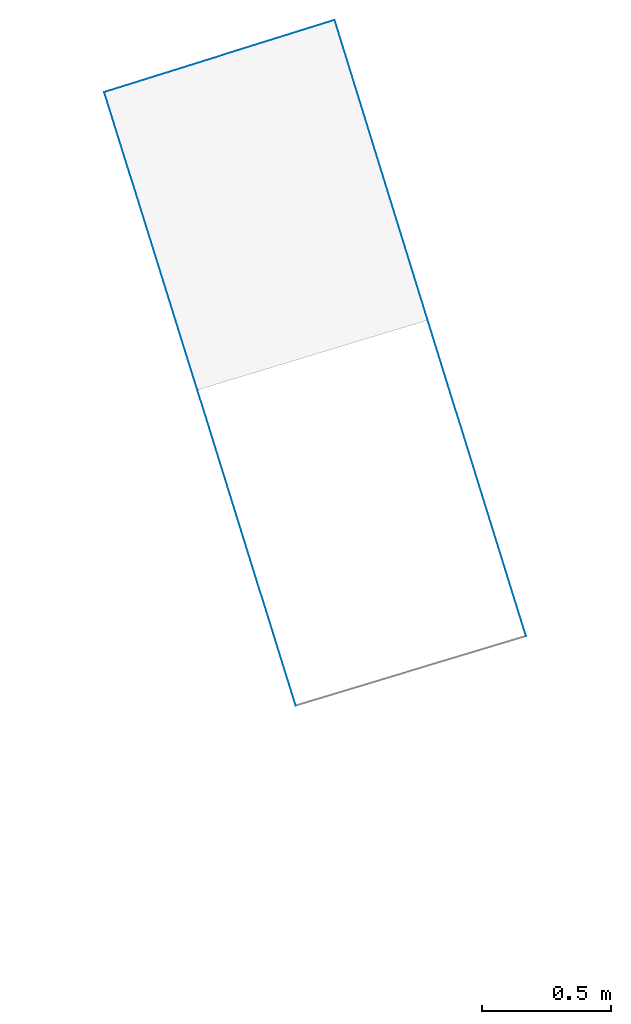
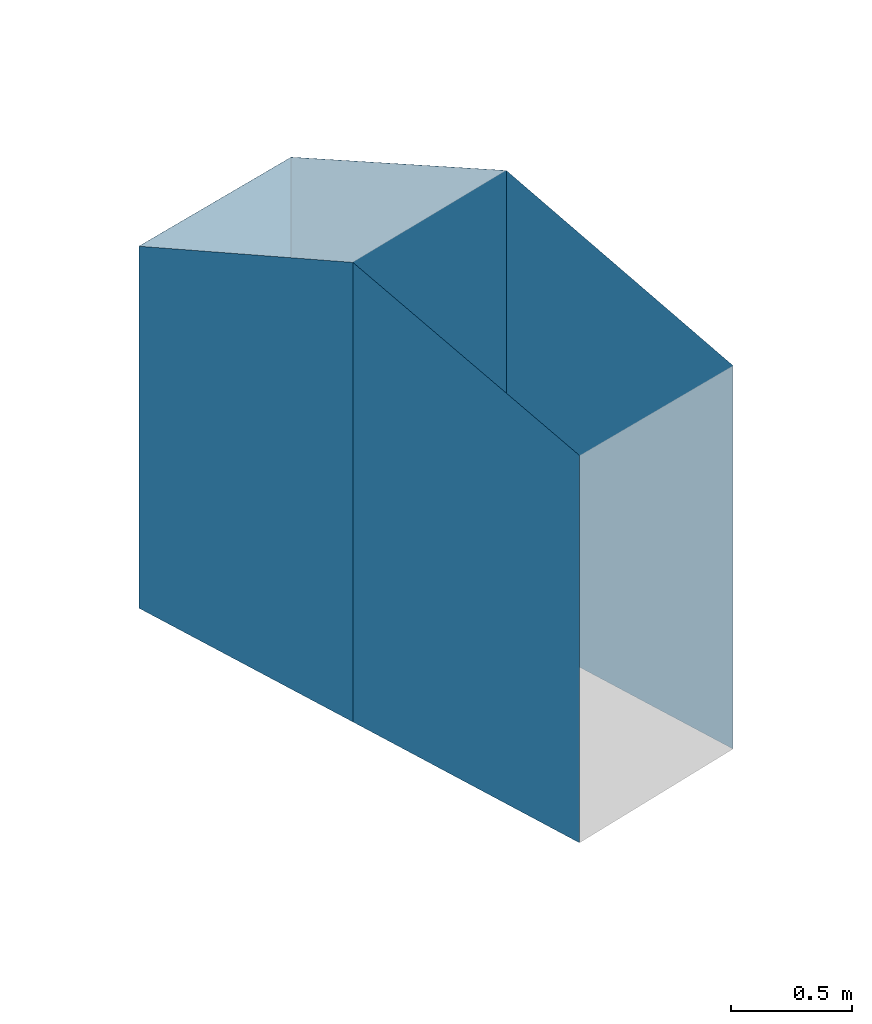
# Not in any storey, part 42 of 59: 5 walls.
"""IFC4 building model written with IfcOpenShell, lengths in metres."""

import ifcopenshell
import ifcopenshell.guid

model = None  # the IFC model being written
_history = None  # IfcOwnerHistory: only IFC2X3 demands one
_inside = {}  # id of a spatial element -> (the spatial element, [elements in it])
_under = {}  # id of a project, library or spatial element -> (it, [spatial elements below it])
_declared = {}  # id of a project -> (the project, [libraries it declares])
_typed = {}  # id of a type object -> (the type object, [elements of that type])
_made_of = {}  # id of a material, layer set ... -> (it, [elements and type objects made of it])


def new_model(schema):
    """Start an empty IFC model of exactly this schema.

    Asked for "IFC4X3", IfcOpenShell would pick the latest addendum, in which some entities
    have other attributes; the version numbers below select the first issue.
    IFC2X3 requires an IfcOwnerHistory on every rooted entity: one is made here for all.
    """
    global model, _history
    if schema == "IFC4X3":
        model = ifcopenshell.file(schema_version=(4, 3, 0, 0))
    else:
        model = ifcopenshell.file(schema=schema)
    _inside.clear()
    _under.clear()
    _declared.clear()
    _typed.clear()
    _made_of.clear()
    _history = None
    if model.schema == "IFC2X3":
        org = make("IfcOrganization", Name="unknown")
        user = make(
            "IfcPersonAndOrganization",
            ThePerson=make("IfcPerson", FamilyName="unknown"),
            TheOrganization=org,
        )
        app = make(
            "IfcApplication",
            ApplicationDeveloper=org,
            Version="unknown",
            ApplicationFullName="unknown",
            ApplicationIdentifier="unknown",
        )
        _history = make(
            "IfcOwnerHistory",
            OwningUser=user,
            OwningApplication=app,
            ChangeAction="ADDED",
            CreationDate=0,
        )
    return model


def make(cls, **values):
    """One entity of the class cls with the attributes given. An attribute that is None is left unset."""
    return model.create_entity(
        cls, **{name: value for name, value in values.items() if value is not None}
    )


def entity(cls, *values):
    """Any entity or typed value of the class cls, its attributes in the order of the schema. None: left unset."""
    e = model.create_entity(cls)
    for i, value in enumerate(values):
        if value is not None:
            e[i] = value
    return e


def rooted(cls, **values):
    """An entity with a GlobalId (a new one), such as an element, a storey or a relation."""
    return make(cls, GlobalId=ifcopenshell.guid.new(), OwnerHistory=_history, **values)


def si_unit(unit_type, name, prefix=None):
    """IfcSIUnit, for example si_unit("LENGTHUNIT", "METRE", prefix="MILLI")."""
    return make("IfcSIUnit", UnitType=unit_type, Prefix=prefix, Name=name)


def converted_unit(unit_type, name, factor, base, dimensions=None, offset=None):
    """IfcConversionBasedUnit, such as the inch: factor (a typed value) times the base unit."""
    return make(
        "IfcConversionBasedUnit"
        if offset is None
        else "IfcConversionBasedUnitWithOffset",
        ConversionOffset=offset,
        Dimensions=None
        if dimensions is None
        else entity("IfcDimensionalExponents", *dimensions),
        UnitType=unit_type,
        Name=name,
        ConversionFactor=make(
            "IfcMeasureWithUnit", ValueComponent=factor, UnitComponent=base
        ),
    )


def assignment(units):
    """IfcUnitAssignment: the units of a project."""
    return None if units is None else make("IfcUnitAssignment", Units=units)


def point(xyz):
    """IfcCartesianPoint."""
    return None if xyz is None else make("IfcCartesianPoint", Coordinates=xyz)


def direction(xyz):
    """IfcDirection."""
    return None if xyz is None else make("IfcDirection", DirectionRatios=xyz)


def frame(location, z_axis=None, x_axis=None):
    """IfcAxis2Placement3D, a coordinate frame: its origin and axes. An axis left out is left unset."""
    return make(
        "IfcAxis2Placement3D",
        Location=point(location),
        Axis=direction(z_axis),
        RefDirection=direction(x_axis),
    )


def origin():
    """The frame at (0, 0, 0) with its axes left unset."""
    return frame((0.0, 0.0, 0.0))


def place(relative_to, where):
    """IfcLocalPlacement: puts the frame where relative to a parent placement (None: the world)."""
    return make(
        "IfcLocalPlacement", PlacementRelTo=relative_to, RelativePlacement=where
    )


def context(
    kind, dimensions, precision=None, world=None, true_north=None, identifier=None
):
    """IfcGeometricRepresentationContext, for example the 3D "Model" context."""
    return make(
        "IfcGeometricRepresentationContext",
        ContextIdentifier=identifier,
        ContextType=kind,
        CoordinateSpaceDimension=dimensions,
        Precision=precision,
        WorldCoordinateSystem=world,
        TrueNorth=true_north,
    )


def subcontext(parent, identifier, kind, view, scale=None):
    """IfcGeometricRepresentationSubContext, for example "Body" below "Model"."""
    return make(
        "IfcGeometricRepresentationSubContext",
        ContextIdentifier=identifier,
        ContextType=kind,
        ParentContext=parent,
        TargetScale=scale,
        TargetView=view,
    )


def project(units=None, contexts=None):
    """IfcProject with its units and contexts."""
    return rooted(
        "IfcProject",
        Name="project",
        RepresentationContexts=contexts,
        UnitsInContext=assignment(units),
    )


def spatial(cls, under=None, at=None, **own):
    """A site, building, storey or space (cls), placed at a placement, below another one or the project."""
    s = rooted(cls, ObjectPlacement=at, **own)
    if under is not None:
        _under.setdefault(under.id(), (under, []))[1].append(s)
    return s


def faces_of(points, faces, orient=None, outer=None):
    """IfcFace entities. A face is a list of loops; a loop is a list of indices into points, from 0.

    orient and outer hold one flag for each loop. By default every Orientation is true, the
    first loop of a face is its IfcFaceOuterBound and the others are IfcFaceBound.
    """
    made = []
    for i, loops in enumerate(faces):
        bounds = []
        for j, loop in enumerate(loops):
            is_outer = j == 0 if outer is None else outer[i][j]
            bounds.append(
                make(
                    "IfcFaceOuterBound" if is_outer else "IfcFaceBound",
                    Bound=make("IfcPolyLoop", Polygon=[points[k] for k in loop]),
                    Orientation=True if orient is None else orient[i][j],
                )
            )
        made.append(make("IfcFace", Bounds=bounds))
    return made


def face_set(faces, orient=None, outer=None):
    """The faces of one IfcConnectedFaceSet. surface_model builds it on its shared points."""
    return ("IfcConnectedFaceSet", faces, orient, outer)


def surface_model(cls, points, shells):
    """IfcFaceBasedSurfaceModel or IfcShellBasedSurfaceModel (cls): surfaces that need not close."""
    shared = [point(p) for p in points]
    made = [make(c, CfsFaces=faces_of(shared, fs, o, b)) for c, fs, o, b in shells]
    if cls == "IfcFaceBasedSurfaceModel":
        return make(cls, FbsmFaces=made)
    return make(cls, SbsmBoundary=made)


def shape(context_of_items, identifier, shape_type, items):
    """IfcShapeRepresentation: the items that make up one representation, for example the "Body"."""
    return make(
        "IfcShapeRepresentation",
        ContextOfItems=context_of_items,
        RepresentationIdentifier=identifier,
        RepresentationType=shape_type,
        Items=items,
    )


def made_of(thing, what):
    """Note that an element or type object is made of a material, layer set ...; save() writes the relation."""
    if what is not None:
        _made_of.setdefault(what.id(), (what, []))[1].append(thing)
    return thing


def element(
    cls,
    number,
    at=None,
    inside=None,
    cuts=None,
    type_object=None,
    material=None,
    context=None,
    identifier="Body",
    shape_type=None,
    held_by="IfcProductDefinitionShape",
    body=None,
    shapes=None,
    **own,
):
    """One element of the class cls, such as IfcWall. Its Tag is "e" and its number.

    at: its placement. inside: the storey or other place that contains it. cuts: it is an
    opening in that element (IfcRelVoidsElement). A single representation is given by context,
    identifier, shape_type and body (its items); several are given by shapes. held_by: the class
    of the entity that holds the representations. save() writes the other relations.
    """
    e = rooted(cls, Tag="e%d" % number, ObjectPlacement=at, **own)
    if body is not None:
        shapes = [shape(context, identifier, shape_type, body)]
    if shapes is not None:
        e.Representation = make(held_by, Representations=shapes)
    if inside is not None:
        _inside.setdefault(inside.id(), (inside, []))[1].append(e)
    if cuts is not None:
        rooted(
            "IfcRelVoidsElement", RelatingBuildingElement=cuts, RelatedOpeningElement=e
        )
    if type_object is not None:
        _typed.setdefault(type_object.id(), (type_object, []))[1].append(e)
    return made_of(e, material)


def aggregate(whole, parts):
    """IfcRelAggregates: a whole, such as a stair, and the parts it consists of."""
    return rooted("IfcRelAggregates", RelatingObject=whole, RelatedObjects=parts)


def save(model, path):
    """Write the relations noted so far, then the file.

    IfcRelAggregates (storeys below a building ...), IfcRelContainedInSpatialStructure (elements
    in a storey), IfcRelDefinesByType, IfcRelAssociatesMaterial and IfcRelDeclares: one each for
    every whole, place, type object, material and project.
    """
    for whole, parts in _under.values():
        aggregate(whole, parts)
    for where, things in _inside.values():
        rooted(
            "IfcRelContainedInSpatialStructure",
            RelatedElements=things,
            RelatingStructure=where,
        )
    for kind, things in _typed.values():
        rooted("IfcRelDefinesByType", RelatedObjects=things, RelatingType=kind)
    for what, things in _made_of.values():
        rooted("IfcRelAssociatesMaterial", RelatedObjects=things, RelatingMaterial=what)
    for by, libraries in _declared.values():
        rooted("IfcRelDeclares", RelatingContext=by, RelatedDefinitions=libraries)
    model.write(path)


model = new_model("IFC4")

# Units and contexts
model_context = context("Model", 3, precision=1e-05, world=origin())
body_context = subcontext(model_context, "Body", "Model", "MODEL_VIEW")
ifc_project = project(units=[converted_unit("PLANEANGLEUNIT", "DEGREE", entity("IfcRatioMeasure", 0.0174532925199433), si_unit("PLANEANGLEUNIT", "RADIAN"), dimensions=[0, 0, 0, 0, 0, 0, 0]), si_unit("AREAUNIT", "SQUARE_METRE"), si_unit("LENGTHUNIT", "METRE")], contexts=[model_context])

# Site, building
site_placement = place(None, origin())
site = spatial("IfcSite", under=ifc_project, at=site_placement, Name="_site")
building_placement = place(site_placement, origin())
building = spatial("IfcBuilding", under=site, at=building_placement, Name="_building")

# Walls
wall_1_placement = place(building_placement, origin())
element("IfcWall", 1, at=wall_1_placement, inside=building, Name="Wall", PredefinedType="NOTDEFINED", context=body_context, shape_type="SurfaceModel", body=[
    surface_model("IfcFaceBasedSurfaceModel", [(212.36, 266.23, 224.33), (212.0, 267.381, 223.84), (212.0, 267.381, 222.009), (212.36, 266.23, 222.005)], [face_set([[[0, 1, 2, 3]]])]),
])
wall_2_placement = place(building_placement, origin())
element("IfcWall", 2, at=wall_2_placement, inside=building, Name="Wall", PredefinedType="NOTDEFINED", context=body_context, shape_type="SurfaceModel", body=[
    surface_model("IfcFaceBasedSurfaceModel", [(212.74, 265.01, 223.96), (212.36, 266.23, 224.33), (212.36, 266.23, 222.005), (212.74, 265.01, 222.0)], [face_set([[[0, 1, 2, 3]]])]),
])
wall_3_placement = place(building_placement, origin())
element("IfcWall", 3, at=wall_3_placement, inside=building, Name="Wall", PredefinedType="NOTDEFINED", context=body_context, shape_type="SurfaceModel", body=[
    surface_model("IfcFaceBasedSurfaceModel", [(212.89, 267.66, 223.81), (213.25, 266.5, 224.32), (213.25, 266.5, 222.004), (212.89, 267.66, 222.008)], [face_set([[[0, 1, 2, 3]]])]),
])
wall_4_placement = place(building_placement, origin())
element("IfcWall", 4, at=wall_4_placement, inside=building, Name="Wall", PredefinedType="NOTDEFINED", context=body_context, shape_type="SurfaceModel", body=[
    surface_model("IfcFaceBasedSurfaceModel", [(213.25, 266.5, 224.32), (213.63, 265.279, 223.94), (213.63, 265.279, 222.0), (213.25, 266.5, 222.004)], [face_set([[[0, 1, 2, 3]]])]),
])
wall_5_placement = place(building_placement, origin())
element("IfcWall", 5, at=wall_5_placement, inside=building, Name="Wall", PredefinedType="NOTDEFINED", context=body_context, shape_type="SurfaceModel", body=[
    surface_model("IfcFaceBasedSurfaceModel", [(212.0, 267.381, 223.84), (212.89, 267.66, 223.81), (212.89, 267.66, 222.008), (212.0, 267.381, 222.009)], [face_set([[[0, 1, 2, 3]]])]),
])

save(model, "model.ifc")
